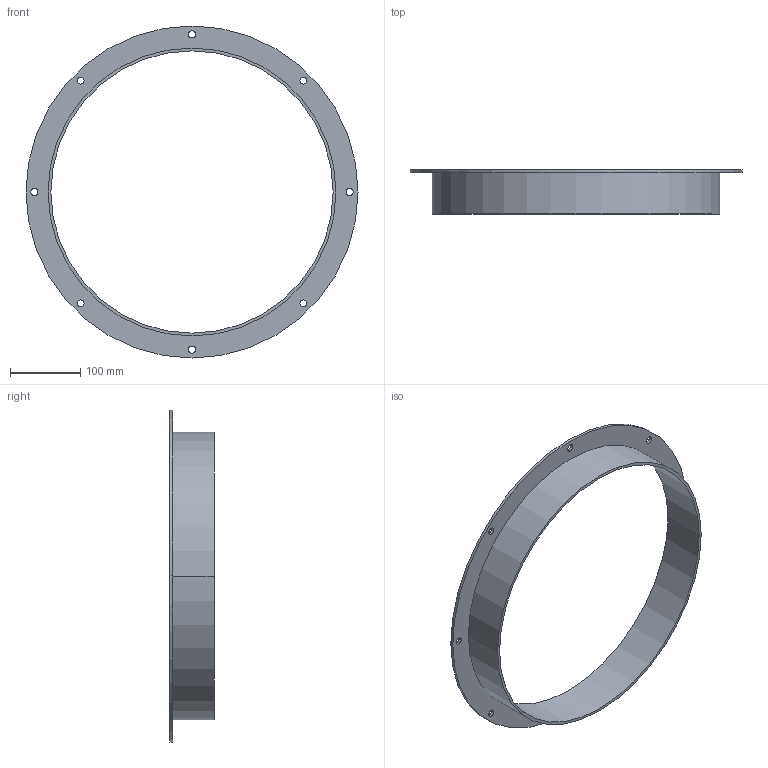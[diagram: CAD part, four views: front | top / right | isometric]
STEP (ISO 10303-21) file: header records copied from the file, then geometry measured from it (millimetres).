
FILE_DESCRIPTION(('STEP AP214'),'1');
FILE_NAME('accessory_5136843900.stp','2017-10-09T07:15:55',('TraceParts'),('TraceParts S.A.'),'Spatial InterOp 3D',' ',' ');
FILE_SCHEMA(('automotive_design'));
Length unit declared in the file: millimetre
Products named in the file (1): accessory_5136843900
Bounding box: 474 x 63 x 474 mm (x, y, z)
Volume: 494860.5 mm3; surface area: 259456.3 mm2
Topology: 1 solids, 1 shells, 25 faces, 66 edges, 44 vertices
Faces by surface type: cylinder 22, plane 3
Entity records: 1056 total; most frequent: DIRECTION 162, CARTESIAN_POINT 136, ORIENTED_EDGE 132, AXIS2_PLACEMENT_3D 70, EDGE_CURVE 66, EDGE_LOOP 44, VERTEX_POINT 44, CIRCLE 44
